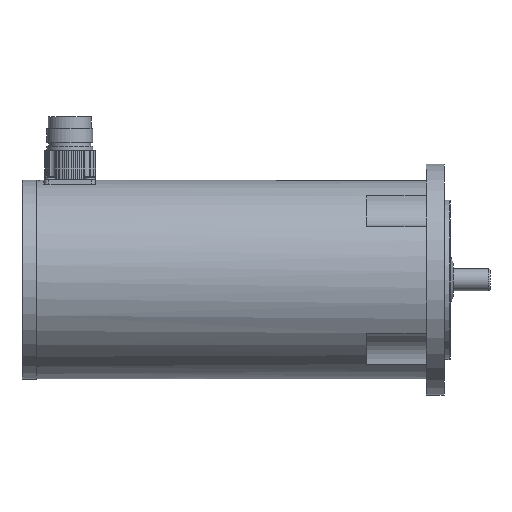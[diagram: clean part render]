
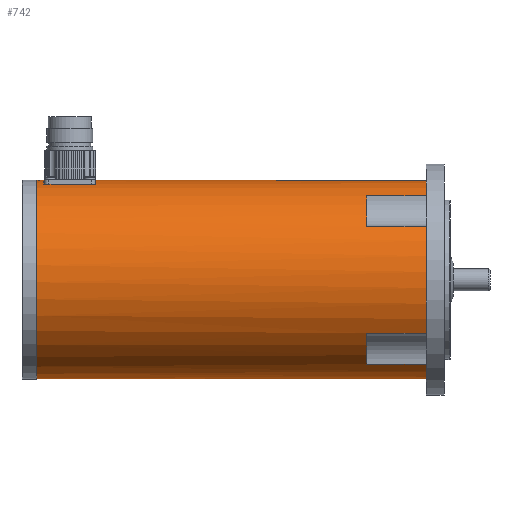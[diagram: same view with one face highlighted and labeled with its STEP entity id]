
A CAD part, left-side view. The second image highlights one B-rep face of the part: STEP entity #742.
In plain terms, the highlighted cylindrical face has radius 50 mm (diameter 100 mm), a full revolution.
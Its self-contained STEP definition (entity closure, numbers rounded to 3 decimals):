
#372=CYLINDRICAL_SURFACE('',#4102,50.);
#504=LINE('',#6088,#622);
#505=LINE('',#6092,#623);
#506=LINE('',#6093,#624);
#507=LINE('',#6095,#625);
#508=LINE('',#6099,#626);
#509=LINE('',#6100,#627);
#510=LINE('',#6104,#628);
#511=LINE('',#6105,#629);
#512=LINE('',#6109,#630);
#513=LINE('',#6110,#631);
#622=VECTOR('',#4732,1.);
#623=VECTOR('',#4735,1.);
#624=VECTOR('',#4736,1.);
#625=VECTOR('',#4737,1.);
#626=VECTOR('',#4740,1.);
#627=VECTOR('',#4741,1.);
#628=VECTOR('',#4744,1.);
#629=VECTOR('',#4745,1.);
#630=VECTOR('',#4748,1.);
#631=VECTOR('',#4749,1.);
#742=ADVANCED_FACE('',(#1274,#1275,#1276),#372,.T.);
#1274=FACE_BOUND('',#1565,.T.);
#1275=FACE_BOUND('',#1566,.T.);
#1276=FACE_BOUND('',#1567,.T.);
#1565=EDGE_LOOP('',(#2036,#2037,#2038,#2039));
#1566=EDGE_LOOP('',(#2040,#2041,#2042,#2043,#2044,#2045,#2046,#2047,#2048,
#2049,#2050,#2051,#2052,#2053,#2054,#2055));
#1567=EDGE_LOOP('',(#2056));
#2036=ORIENTED_EDGE('',*,*,#3306,.F.);
#2037=ORIENTED_EDGE('',*,*,#3307,.F.);
#2038=ORIENTED_EDGE('',*,*,#3308,.F.);
#2039=ORIENTED_EDGE('',*,*,#3309,.F.);
#2040=ORIENTED_EDGE('',*,*,#3310,.F.);
#2041=ORIENTED_EDGE('',*,*,#3304,.T.);
#2042=ORIENTED_EDGE('',*,*,#3311,.F.);
#2043=ORIENTED_EDGE('',*,*,#3312,.F.);
#2044=ORIENTED_EDGE('',*,*,#3313,.F.);
#2045=ORIENTED_EDGE('',*,*,#3302,.T.);
#2046=ORIENTED_EDGE('',*,*,#3314,.F.);
#2047=ORIENTED_EDGE('',*,*,#3315,.F.);
#2048=ORIENTED_EDGE('',*,*,#3316,.F.);
#2049=ORIENTED_EDGE('',*,*,#3300,.T.);
#2050=ORIENTED_EDGE('',*,*,#3317,.F.);
#2051=ORIENTED_EDGE('',*,*,#3318,.F.);
#2052=ORIENTED_EDGE('',*,*,#3319,.F.);
#2053=ORIENTED_EDGE('',*,*,#3298,.T.);
#2054=ORIENTED_EDGE('',*,*,#3320,.F.);
#2055=ORIENTED_EDGE('',*,*,#3321,.F.);
#2056=ORIENTED_EDGE('',*,*,#3296,.T.);
#2936=VERTEX_POINT('',#6064);
#2937=VERTEX_POINT('',#6067);
#2938=VERTEX_POINT('',#6068);
#2939=VERTEX_POINT('',#6070);
#2940=VERTEX_POINT('',#6072);
#2941=VERTEX_POINT('',#6074);
#2942=VERTEX_POINT('',#6076);
#2943=VERTEX_POINT('',#6078);
#2944=VERTEX_POINT('',#6080);
#2946=VERTEX_POINT('',#6086);
#2947=VERTEX_POINT('',#6087);
#2948=VERTEX_POINT('',#6089);
#2949=VERTEX_POINT('',#6091);
#2950=VERTEX_POINT('',#6094);
#2951=VERTEX_POINT('',#6096);
#2952=VERTEX_POINT('',#6098);
#2953=VERTEX_POINT('',#6101);
#2954=VERTEX_POINT('',#6103);
#2955=VERTEX_POINT('',#6106);
#2956=VERTEX_POINT('',#6108);
#2957=VERTEX_POINT('',#6111);
#3296=EDGE_CURVE('',#2936,#2936,#3751,.T.);
#3298=EDGE_CURVE('',#2939,#2938,#3753,.T.);
#3300=EDGE_CURVE('',#2941,#2940,#3755,.T.);
#3302=EDGE_CURVE('',#2943,#2942,#3757,.T.);
#3304=EDGE_CURVE('',#2937,#2944,#3759,.T.);
#3306=EDGE_CURVE('',#2946,#2947,#3761,.T.);
#3307=EDGE_CURVE('',#2948,#2946,#504,.T.);
#3308=EDGE_CURVE('',#2949,#2948,#3762,.T.);
#3309=EDGE_CURVE('',#2947,#2949,#505,.T.);
#3310=EDGE_CURVE('',#2937,#2950,#506,.T.);
#3311=EDGE_CURVE('',#2951,#2944,#507,.T.);
#3312=EDGE_CURVE('',#2952,#2951,#3763,.T.);
#3313=EDGE_CURVE('',#2943,#2952,#508,.T.);
#3314=EDGE_CURVE('',#2953,#2942,#509,.T.);
#3315=EDGE_CURVE('',#2954,#2953,#3764,.T.);
#3316=EDGE_CURVE('',#2941,#2954,#510,.T.);
#3317=EDGE_CURVE('',#2955,#2940,#511,.T.);
#3318=EDGE_CURVE('',#2956,#2955,#3765,.T.);
#3319=EDGE_CURVE('',#2939,#2956,#512,.T.);
#3320=EDGE_CURVE('',#2957,#2938,#513,.T.);
#3321=EDGE_CURVE('',#2950,#2957,#3766,.T.);
#3751=CIRCLE('',#4084,50.);
#3753=CIRCLE('',#4087,50.);
#3755=CIRCLE('',#4089,50.);
#3757=CIRCLE('',#4091,50.);
#3759=CIRCLE('',#4093,50.);
#3761=CIRCLE('',#4096,50.);
#3762=CIRCLE('',#4097,50.);
#3763=CIRCLE('',#4098,50.);
#3764=CIRCLE('',#4099,50.);
#3765=CIRCLE('',#4100,50.);
#3766=CIRCLE('',#4101,50.);
#4084=AXIS2_PLACEMENT_3D('',#6063,#4706,#4707);
#4087=AXIS2_PLACEMENT_3D('',#6069,#4712,#4713);
#4089=AXIS2_PLACEMENT_3D('',#6073,#4716,#4717);
#4091=AXIS2_PLACEMENT_3D('',#6077,#4720,#4721);
#4093=AXIS2_PLACEMENT_3D('',#6081,#4724,#4725);
#4096=AXIS2_PLACEMENT_3D('',#6085,#4730,#4731);
#4097=AXIS2_PLACEMENT_3D('',#6090,#4733,#4734);
#4098=AXIS2_PLACEMENT_3D('',#6097,#4738,#4739);
#4099=AXIS2_PLACEMENT_3D('',#6102,#4742,#4743);
#4100=AXIS2_PLACEMENT_3D('',#6107,#4746,#4747);
#4101=AXIS2_PLACEMENT_3D('',#6112,#4750,#4751);
#4102=AXIS2_PLACEMENT_3D('',#6113,#4752,#4753);
#4706=DIRECTION('',(0.,-1.,0.));
#4707=DIRECTION('',(0.,0.,-1.));
#4712=DIRECTION('',(0.,1.,0.));
#4713=DIRECTION('',(0.,0.,1.));
#4716=DIRECTION('',(0.,1.,0.));
#4717=DIRECTION('',(0.,0.,1.));
#4720=DIRECTION('',(0.,1.,0.));
#4721=DIRECTION('',(0.,0.,1.));
#4724=DIRECTION('',(0.,1.,0.));
#4725=DIRECTION('',(0.,0.,1.));
#4730=DIRECTION('',(0.,1.,0.));
#4731=DIRECTION('',(0.,0.,-1.));
#4732=DIRECTION('',(0.,-1.,0.));
#4733=DIRECTION('',(0.,-1.,0.));
#4734=DIRECTION('',(0.,0.,1.));
#4735=DIRECTION('',(0.,1.,0.));
#4736=DIRECTION('',(0.,1.,0.));
#4737=DIRECTION('',(0.,-1.,0.));
#4738=DIRECTION('',(0.,-1.,0.));
#4739=DIRECTION('',(0.,0.,1.));
#4740=DIRECTION('',(0.,1.,0.));
#4741=DIRECTION('',(0.,-1.,0.));
#4742=DIRECTION('',(0.,-1.,0.));
#4743=DIRECTION('',(0.,0.,1.));
#4744=DIRECTION('',(0.,1.,0.));
#4745=DIRECTION('',(0.,-1.,0.));
#4746=DIRECTION('',(0.,-1.,0.));
#4747=DIRECTION('',(0.,0.,1.));
#4748=DIRECTION('',(0.,1.,0.));
#4749=DIRECTION('',(0.,-1.,0.));
#4750=DIRECTION('',(0.,-1.,0.));
#4751=DIRECTION('',(0.,0.,1.));
#4752=DIRECTION('',(0.,1.,0.));
#4753=DIRECTION('',(0.,0.,1.));
#6063=CARTESIAN_POINT('',(0.,195.5,0.));
#6064=CARTESIAN_POINT('',(0.,195.5,-50.));
#6067=CARTESIAN_POINT('',(-26.729,0.,42.256));
#6068=CARTESIAN_POINT('',(-42.256,0.,26.729));
#6069=CARTESIAN_POINT('',(0.,0.,0.));
#6070=CARTESIAN_POINT('',(-42.256,0.,-26.729));
#6072=CARTESIAN_POINT('',(-26.729,0.,-42.256));
#6073=CARTESIAN_POINT('',(0.,0.,0.));
#6074=CARTESIAN_POINT('',(26.729,0.,-42.256));
#6076=CARTESIAN_POINT('',(42.256,0.,-26.729));
#6077=CARTESIAN_POINT('',(0.,0.,0.));
#6078=CARTESIAN_POINT('',(42.256,0.,26.729));
#6080=CARTESIAN_POINT('',(26.729,0.,42.256));
#6081=CARTESIAN_POINT('',(0.,0.,0.));
#6085=CARTESIAN_POINT('',(0.,166.,0.));
#6086=CARTESIAN_POINT('',(-14.,166.,48.));
#6087=CARTESIAN_POINT('',(14.,166.,48.));
#6088=CARTESIAN_POINT('',(-14.,0.,48.));
#6089=CARTESIAN_POINT('',(-14.,192.,48.));
#6090=CARTESIAN_POINT('',(0.,192.,0.));
#6091=CARTESIAN_POINT('',(14.,192.,48.));
#6092=CARTESIAN_POINT('',(14.,0.,48.));
#6093=CARTESIAN_POINT('',(-26.729,15.,42.256));
#6094=CARTESIAN_POINT('',(-26.729,30.,42.256));
#6095=CARTESIAN_POINT('',(26.729,15.,42.256));
#6096=CARTESIAN_POINT('',(26.729,30.,42.256));
#6097=CARTESIAN_POINT('',(0.,30.,0.));
#6098=CARTESIAN_POINT('',(42.256,30.,26.729));
#6099=CARTESIAN_POINT('',(42.256,15.,26.729));
#6100=CARTESIAN_POINT('',(42.256,15.,-26.729));
#6101=CARTESIAN_POINT('',(42.256,30.,-26.729));
#6102=CARTESIAN_POINT('',(0.,30.,0.));
#6103=CARTESIAN_POINT('',(26.729,30.,-42.256));
#6104=CARTESIAN_POINT('',(26.729,15.,-42.256));
#6105=CARTESIAN_POINT('',(-26.729,15.,-42.256));
#6106=CARTESIAN_POINT('',(-26.729,30.,-42.256));
#6107=CARTESIAN_POINT('',(0.,30.,0.));
#6108=CARTESIAN_POINT('',(-42.256,30.,-26.729));
#6109=CARTESIAN_POINT('',(-42.256,15.,-26.729));
#6110=CARTESIAN_POINT('',(-42.256,15.,26.729));
#6111=CARTESIAN_POINT('',(-42.256,30.,26.729));
#6112=CARTESIAN_POINT('',(0.,30.,0.));
#6113=CARTESIAN_POINT('',(0.,0.,0.));
